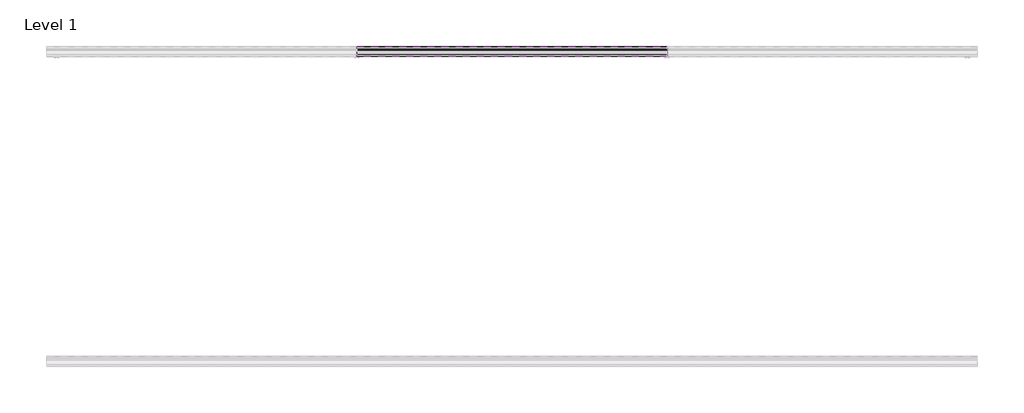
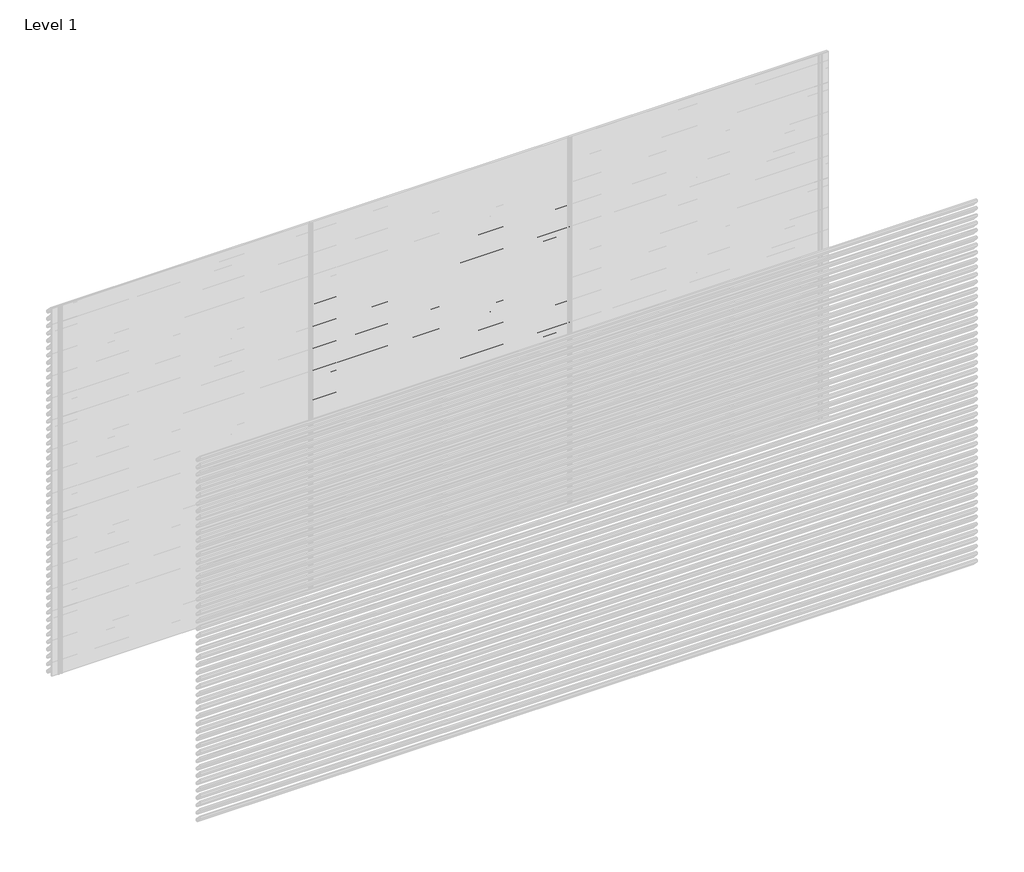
# One storey, part 145 of 153: 33 proxies.
"""IFC4 building model written with IfcOpenShell, lengths in millimetres."""

from ifc_helpers import new_model, si_unit, point, frame, frame_2d, origin, place, context, project, spatial, polyline, circle_curve, trimmed, segment, composite_curve, outline, extrude, element, save

model = new_model("IFC4")

# Units and contexts
model_context = context("Model", 3, world=origin())
ifc_project = project(units=[si_unit("LENGTHUNIT", "METRE", prefix="MILLI")], contexts=[model_context])

# Site, building, storey
site = spatial("IfcSite", under=ifc_project)
building = spatial("IfcBuilding", under=site)
storey = spatial("IfcBuildingStorey", under=building, Name="Level 1", Elevation=0.0)

# Proxies
placement = place(None, origin())
element("IfcBuildingElementProxy", 1, Name="Wall Sweeps", at=placement, inside=storey, context=model_context, shape_type="SweptSolid", body=[
    extrude(outline(composite_curve([segment(polyline([(73985.0540136, 2460.0), (73999.874191, 2458.7034025), (74049.0540136, 2405.0102749), (74049.0540136, 2393.6108187)]), True, "CONTINUOUS"), segment(trimmed(circle_curve(frame_2d((74045.7883652, 2393.897153)), 3.2781774), [point((74049.0540136, 2393.6108187))], [point((74046.4639442, 2390.6893438))], False, "CARTESIAN"), True, "CONTINUOUS"), segment(polyline([(74046.4639442, 2390.6893438), (74034.1895723, 2391.6282758), (73985.0540136, 2445.2730773), (73985.0540136, 2460.0)]), True, "CONTINUOUS")], self_intersect=False), holes=[composite_curve([segment(polyline([(73999.1621773, 2457.2599659), (73986.5540136, 2458.3630372), (73986.5540136, 2445.856213), (74034.8952036, 2393.0786805), (74046.3312542, 2392.2038762)]), True, "CONTINUOUS"), segment(trimmed(circle_curve(frame_2d((74045.7883652, 2393.897153)), 1.7781774), [point((74046.3312542, 2392.2038762))], [point((74047.5540136, 2393.6864389))], True, "CARTESIAN"), True, "CONTINUOUS"), segment(polyline([(74047.5540136, 2393.6864389), (74047.5540136, 2404.4271392), (73999.1621773, 2457.2599659)]), True, "CONTINUOUS")], self_intersect=False)]), frame((46966.6208098, 0.0, 0.0), z_axis=(1.0, 0.0, 0.0), x_axis=(0.0, 1.0, 0.0)), (0.0, 0.0, 1.0), 1999.9999998),
])
element("IfcBuildingElementProxy", 2, Name="Wall Sweeps", at=placement, inside=storey, context=model_context, shape_type="SweptSolid", body=[
    extrude(outline(composite_curve([segment(polyline([(73985.0540136, 2400.0), (73999.874191, 2398.7034025), (74049.0540136, 2345.0102749), (74049.0540136, 2333.6108187)]), True, "CONTINUOUS"), segment(trimmed(circle_curve(frame_2d((74045.7883652, 2333.897153)), 3.2781774), [point((74049.0540136, 2333.6108187))], [point((74046.4639442, 2330.6893438))], False, "CARTESIAN"), True, "CONTINUOUS"), segment(polyline([(74046.4639442, 2330.6893438), (74034.1895723, 2331.6282758), (73985.0540136, 2385.2730773), (73985.0540136, 2400.0)]), True, "CONTINUOUS")], self_intersect=False), holes=[composite_curve([segment(polyline([(73999.1621773, 2397.2599659), (73986.5540136, 2398.3630372), (73986.5540136, 2385.856213), (74034.8952036, 2333.0786805), (74046.3312542, 2332.2038762)]), True, "CONTINUOUS"), segment(trimmed(circle_curve(frame_2d((74045.7883652, 2333.897153)), 1.7781774), [point((74046.3312542, 2332.2038762))], [point((74047.5540136, 2333.6864389))], True, "CARTESIAN"), True, "CONTINUOUS"), segment(polyline([(74047.5540136, 2333.6864389), (74047.5540136, 2344.4271392), (73999.1621773, 2397.2599659)]), True, "CONTINUOUS")], self_intersect=False)]), frame((46966.6208098, 0.0, 0.0), z_axis=(1.0, 0.0, 0.0), x_axis=(0.0, 1.0, 0.0)), (0.0, 0.0, 1.0), 1999.9999998),
])
element("IfcBuildingElementProxy", 3, Name="Wall Sweeps", at=placement, inside=storey, context=model_context, shape_type="SweptSolid", body=[
    extrude(outline(composite_curve([segment(polyline([(73985.0540136, 2340.0), (73999.874191, 2338.7034025), (74049.0540136, 2285.0102749), (74049.0540136, 2273.6108187)]), True, "CONTINUOUS"), segment(trimmed(circle_curve(frame_2d((74045.7883652, 2273.897153)), 3.2781774), [point((74049.0540136, 2273.6108187))], [point((74046.4639442, 2270.6893438))], False, "CARTESIAN"), True, "CONTINUOUS"), segment(polyline([(74046.4639442, 2270.6893438), (74034.1895723, 2271.6282758), (73985.0540136, 2325.2730773), (73985.0540136, 2340.0)]), True, "CONTINUOUS")], self_intersect=False), holes=[composite_curve([segment(polyline([(73999.1621773, 2337.2599659), (73986.5540136, 2338.3630372), (73986.5540136, 2325.856213), (74034.8952036, 2273.0786805), (74046.3312542, 2272.2038762)]), True, "CONTINUOUS"), segment(trimmed(circle_curve(frame_2d((74045.7883652, 2273.897153)), 1.7781774), [point((74046.3312542, 2272.2038762))], [point((74047.5540136, 2273.6864389))], True, "CARTESIAN"), True, "CONTINUOUS"), segment(polyline([(74047.5540136, 2273.6864389), (74047.5540136, 2284.4271392), (73999.1621773, 2337.2599659)]), True, "CONTINUOUS")], self_intersect=False)]), frame((46966.6208098, 0.0, 0.0), z_axis=(1.0, 0.0, 0.0), x_axis=(0.0, 1.0, 0.0)), (0.0, 0.0, 1.0), 1999.9999998),
])
element("IfcBuildingElementProxy", 4, Name="Wall Sweeps", at=placement, inside=storey, context=model_context, shape_type="SweptSolid", body=[
    extrude(outline(composite_curve([segment(polyline([(73985.0540136, 2280.0), (73999.874191, 2278.7034025), (74049.0540136, 2225.0102749), (74049.0540136, 2213.6108187)]), True, "CONTINUOUS"), segment(trimmed(circle_curve(frame_2d((74045.7883652, 2213.897153)), 3.2781774), [point((74049.0540136, 2213.6108187))], [point((74046.4639442, 2210.6893438))], False, "CARTESIAN"), True, "CONTINUOUS"), segment(polyline([(74046.4639442, 2210.6893438), (74034.1895723, 2211.6282758), (73985.0540136, 2265.2730773), (73985.0540136, 2280.0)]), True, "CONTINUOUS")], self_intersect=False), holes=[composite_curve([segment(polyline([(73999.1621773, 2277.2599659), (73986.5540136, 2278.3630372), (73986.5540136, 2265.856213), (74034.8952036, 2213.0786805), (74046.3312542, 2212.2038762)]), True, "CONTINUOUS"), segment(trimmed(circle_curve(frame_2d((74045.7883652, 2213.897153)), 1.7781774), [point((74046.3312542, 2212.2038762))], [point((74047.5540136, 2213.6864389))], True, "CARTESIAN"), True, "CONTINUOUS"), segment(polyline([(74047.5540136, 2213.6864389), (74047.5540136, 2224.4271392), (73999.1621773, 2277.2599659)]), True, "CONTINUOUS")], self_intersect=False)]), frame((46966.6208098, 0.0, 0.0), z_axis=(1.0, 0.0, 0.0), x_axis=(0.0, 1.0, 0.0)), (0.0, 0.0, 1.0), 1999.9999998),
])
element("IfcBuildingElementProxy", 5, Name="Wall Sweeps", at=placement, inside=storey, context=model_context, shape_type="SweptSolid", body=[
    extrude(outline(composite_curve([segment(polyline([(73985.0540136, 2220.0), (73999.874191, 2218.7034025), (74049.0540136, 2165.0102749), (74049.0540136, 2153.6108187)]), True, "CONTINUOUS"), segment(trimmed(circle_curve(frame_2d((74045.7883652, 2153.897153)), 3.2781774), [point((74049.0540136, 2153.6108187))], [point((74046.4639442, 2150.6893438))], False, "CARTESIAN"), True, "CONTINUOUS"), segment(polyline([(74046.4639442, 2150.6893438), (74034.1895723, 2151.6282758), (73985.0540136, 2205.2730773), (73985.0540136, 2220.0)]), True, "CONTINUOUS")], self_intersect=False), holes=[composite_curve([segment(polyline([(73999.1621773, 2217.2599659), (73986.5540136, 2218.3630372), (73986.5540136, 2205.856213), (74034.8952036, 2153.0786805), (74046.3312542, 2152.2038762)]), True, "CONTINUOUS"), segment(trimmed(circle_curve(frame_2d((74045.7883652, 2153.897153)), 1.7781774), [point((74046.3312542, 2152.2038762))], [point((74047.5540136, 2153.6864389))], True, "CARTESIAN"), True, "CONTINUOUS"), segment(polyline([(74047.5540136, 2153.6864389), (74047.5540136, 2164.4271392), (73999.1621773, 2217.2599659)]), True, "CONTINUOUS")], self_intersect=False)]), frame((46966.6208098, 0.0, 0.0), z_axis=(1.0, 0.0, 0.0), x_axis=(0.0, 1.0, 0.0)), (0.0, 0.0, 1.0), 1999.9999998),
])
element("IfcBuildingElementProxy", 6, Name="Wall Sweeps", at=placement, inside=storey, context=model_context, shape_type="SweptSolid", body=[
    extrude(outline(composite_curve([segment(polyline([(73985.0540136, 2160.0), (73999.874191, 2158.7034025), (74049.0540136, 2105.0102749), (74049.0540136, 2093.6108187)]), True, "CONTINUOUS"), segment(trimmed(circle_curve(frame_2d((74045.7883652, 2093.897153)), 3.2781774), [point((74049.0540136, 2093.6108187))], [point((74046.4639442, 2090.6893438))], False, "CARTESIAN"), True, "CONTINUOUS"), segment(polyline([(74046.4639442, 2090.6893438), (74034.1895723, 2091.6282758), (73985.0540136, 2145.2730773), (73985.0540136, 2160.0)]), True, "CONTINUOUS")], self_intersect=False), holes=[composite_curve([segment(polyline([(73999.1621773, 2157.2599659), (73986.5540136, 2158.3630372), (73986.5540136, 2145.856213), (74034.8952036, 2093.0786805), (74046.3312542, 2092.2038762)]), True, "CONTINUOUS"), segment(trimmed(circle_curve(frame_2d((74045.7883652, 2093.897153)), 1.7781774), [point((74046.3312542, 2092.2038762))], [point((74047.5540136, 2093.6864389))], True, "CARTESIAN"), True, "CONTINUOUS"), segment(polyline([(74047.5540136, 2093.6864389), (74047.5540136, 2104.4271392), (73999.1621773, 2157.2599659)]), True, "CONTINUOUS")], self_intersect=False)]), frame((46966.6208098, 0.0, 0.0), z_axis=(1.0, 0.0, 0.0), x_axis=(0.0, 1.0, 0.0)), (0.0, 0.0, 1.0), 1999.9999998),
])
element("IfcBuildingElementProxy", 7, Name="Wall Sweeps", at=placement, inside=storey, context=model_context, shape_type="SweptSolid", body=[
    extrude(outline(composite_curve([segment(polyline([(73985.0540136, 2100.0), (73999.874191, 2098.7034025), (74049.0540136, 2045.0102749), (74049.0540136, 2033.6108187)]), True, "CONTINUOUS"), segment(trimmed(circle_curve(frame_2d((74045.7883652, 2033.897153)), 3.2781774), [point((74049.0540136, 2033.6108187))], [point((74046.4639442, 2030.6893438))], False, "CARTESIAN"), True, "CONTINUOUS"), segment(polyline([(74046.4639442, 2030.6893438), (74034.1895723, 2031.6282758), (73985.0540136, 2085.2730773), (73985.0540136, 2100.0)]), True, "CONTINUOUS")], self_intersect=False), holes=[composite_curve([segment(polyline([(73999.1621773, 2097.2599659), (73986.5540136, 2098.3630372), (73986.5540136, 2085.856213), (74034.8952036, 2033.0786805), (74046.3312542, 2032.2038762)]), True, "CONTINUOUS"), segment(trimmed(circle_curve(frame_2d((74045.7883652, 2033.897153)), 1.7781774), [point((74046.3312542, 2032.2038762))], [point((74047.5540136, 2033.6864389))], True, "CARTESIAN"), True, "CONTINUOUS"), segment(polyline([(74047.5540136, 2033.6864389), (74047.5540136, 2044.4271392), (73999.1621773, 2097.2599659)]), True, "CONTINUOUS")], self_intersect=False)]), frame((46966.6208098, 0.0, 0.0), z_axis=(1.0, 0.0, 0.0), x_axis=(0.0, 1.0, 0.0)), (0.0, 0.0, 1.0), 1999.9999998),
])
element("IfcBuildingElementProxy", 8, Name="Wall Sweeps", at=placement, inside=storey, context=model_context, shape_type="SweptSolid", body=[
    extrude(outline(composite_curve([segment(polyline([(73985.0540136, 2040.0), (73999.874191, 2038.7034025), (74049.0540136, 1985.0102749), (74049.0540136, 1973.6108187)]), True, "CONTINUOUS"), segment(trimmed(circle_curve(frame_2d((74045.7883652, 1973.897153)), 3.2781774), [point((74049.0540136, 1973.6108187))], [point((74046.4639442, 1970.6893438))], False, "CARTESIAN"), True, "CONTINUOUS"), segment(polyline([(74046.4639442, 1970.6893438), (74034.1895723, 1971.6282758), (73985.0540136, 2025.2730773), (73985.0540136, 2040.0)]), True, "CONTINUOUS")], self_intersect=False), holes=[composite_curve([segment(polyline([(73999.1621773, 2037.2599659), (73986.5540136, 2038.3630372), (73986.5540136, 2025.856213), (74034.8952036, 1973.0786805), (74046.3312542, 1972.2038762)]), True, "CONTINUOUS"), segment(trimmed(circle_curve(frame_2d((74045.7883652, 1973.897153)), 1.7781774), [point((74046.3312542, 1972.2038762))], [point((74047.5540136, 1973.6864389))], True, "CARTESIAN"), True, "CONTINUOUS"), segment(polyline([(74047.5540136, 1973.6864389), (74047.5540136, 1984.4271392), (73999.1621773, 2037.2599659)]), True, "CONTINUOUS")], self_intersect=False)]), frame((46966.6208098, 0.0, 0.0), z_axis=(1.0, 0.0, 0.0), x_axis=(0.0, 1.0, 0.0)), (0.0, 0.0, 1.0), 1999.9999998),
])
element("IfcBuildingElementProxy", 9, Name="Wall Sweeps", at=placement, inside=storey, context=model_context, shape_type="SweptSolid", body=[
    extrude(outline(composite_curve([segment(polyline([(73985.0540136, 1980.0), (73999.874191, 1978.7034025), (74049.0540136, 1925.0102749), (74049.0540136, 1913.6108187)]), True, "CONTINUOUS"), segment(trimmed(circle_curve(frame_2d((74045.7883652, 1913.897153)), 3.2781774), [point((74049.0540136, 1913.6108187))], [point((74046.4639442, 1910.6893438))], False, "CARTESIAN"), True, "CONTINUOUS"), segment(polyline([(74046.4639442, 1910.6893438), (74034.1895723, 1911.6282758), (73985.0540136, 1965.2730773), (73985.0540136, 1980.0)]), True, "CONTINUOUS")], self_intersect=False), holes=[composite_curve([segment(polyline([(73999.1621773, 1977.2599659), (73986.5540136, 1978.3630372), (73986.5540136, 1965.856213), (74034.8952036, 1913.0786805), (74046.3312542, 1912.2038762)]), True, "CONTINUOUS"), segment(trimmed(circle_curve(frame_2d((74045.7883652, 1913.897153)), 1.7781774), [point((74046.3312542, 1912.2038762))], [point((74047.5540136, 1913.6864389))], True, "CARTESIAN"), True, "CONTINUOUS"), segment(polyline([(74047.5540136, 1913.6864389), (74047.5540136, 1924.4271392), (73999.1621773, 1977.2599659)]), True, "CONTINUOUS")], self_intersect=False)]), frame((46966.6208098, 0.0, 0.0), z_axis=(1.0, 0.0, 0.0), x_axis=(0.0, 1.0, 0.0)), (0.0, 0.0, 1.0), 1999.9999998),
])
element("IfcBuildingElementProxy", 10, Name="Wall Sweeps", at=placement, inside=storey, context=model_context, shape_type="SweptSolid", body=[
    extrude(outline(composite_curve([segment(polyline([(73985.0540136, 1920.0), (73999.874191, 1918.7034025), (74049.0540136, 1865.0102749), (74049.0540136, 1853.6108187)]), True, "CONTINUOUS"), segment(trimmed(circle_curve(frame_2d((74045.7883652, 1853.897153)), 3.2781774), [point((74049.0540136, 1853.6108187))], [point((74046.4639442, 1850.6893438))], False, "CARTESIAN"), True, "CONTINUOUS"), segment(polyline([(74046.4639442, 1850.6893438), (74034.1895723, 1851.6282758), (73985.0540136, 1905.2730773), (73985.0540136, 1920.0)]), True, "CONTINUOUS")], self_intersect=False), holes=[composite_curve([segment(polyline([(73999.1621773, 1917.2599659), (73986.5540136, 1918.3630372), (73986.5540136, 1905.856213), (74034.8952036, 1853.0786805), (74046.3312542, 1852.2038762)]), True, "CONTINUOUS"), segment(trimmed(circle_curve(frame_2d((74045.7883652, 1853.897153)), 1.7781774), [point((74046.3312542, 1852.2038762))], [point((74047.5540136, 1853.6864389))], True, "CARTESIAN"), True, "CONTINUOUS"), segment(polyline([(74047.5540136, 1853.6864389), (74047.5540136, 1864.4271392), (73999.1621773, 1917.2599659)]), True, "CONTINUOUS")], self_intersect=False)]), frame((46966.6208098, 0.0, 0.0), z_axis=(1.0, 0.0, 0.0), x_axis=(0.0, 1.0, 0.0)), (0.0, 0.0, 1.0), 1999.9999998),
])
element("IfcBuildingElementProxy", 11, Name="Wall Sweeps", at=placement, inside=storey, context=model_context, shape_type="SweptSolid", body=[
    extrude(outline(composite_curve([segment(polyline([(73985.0540136, 1860.0), (73999.874191, 1858.7034025), (74049.0540136, 1805.0102749), (74049.0540136, 1793.6108187)]), True, "CONTINUOUS"), segment(trimmed(circle_curve(frame_2d((74045.7883652, 1793.897153)), 3.2781774), [point((74049.0540136, 1793.6108187))], [point((74046.4639442, 1790.6893438))], False, "CARTESIAN"), True, "CONTINUOUS"), segment(polyline([(74046.4639442, 1790.6893438), (74034.1895723, 1791.6282758), (73985.0540136, 1845.2730773), (73985.0540136, 1860.0)]), True, "CONTINUOUS")], self_intersect=False), holes=[composite_curve([segment(polyline([(73999.1621773, 1857.2599659), (73986.5540136, 1858.3630372), (73986.5540136, 1845.856213), (74034.8952036, 1793.0786805), (74046.3312542, 1792.2038762)]), True, "CONTINUOUS"), segment(trimmed(circle_curve(frame_2d((74045.7883652, 1793.897153)), 1.7781774), [point((74046.3312542, 1792.2038762))], [point((74047.5540136, 1793.6864389))], True, "CARTESIAN"), True, "CONTINUOUS"), segment(polyline([(74047.5540136, 1793.6864389), (74047.5540136, 1804.4271392), (73999.1621773, 1857.2599659)]), True, "CONTINUOUS")], self_intersect=False)]), frame((46966.6208098, 0.0, 0.0), z_axis=(1.0, 0.0, 0.0), x_axis=(0.0, 1.0, 0.0)), (0.0, 0.0, 1.0), 1999.9999998),
])
element("IfcBuildingElementProxy", 12, Name="Wall Sweeps", at=placement, inside=storey, context=model_context, shape_type="SweptSolid", body=[
    extrude(outline(composite_curve([segment(polyline([(73985.0540136, 1800.0), (73999.874191, 1798.7034025), (74049.0540136, 1745.0102749), (74049.0540136, 1733.6108187)]), True, "CONTINUOUS"), segment(trimmed(circle_curve(frame_2d((74045.7883652, 1733.897153)), 3.2781774), [point((74049.0540136, 1733.6108187))], [point((74046.4639442, 1730.6893438))], False, "CARTESIAN"), True, "CONTINUOUS"), segment(polyline([(74046.4639442, 1730.6893438), (74034.1895723, 1731.6282758), (73985.0540136, 1785.2730773), (73985.0540136, 1800.0)]), True, "CONTINUOUS")], self_intersect=False), holes=[composite_curve([segment(polyline([(73999.1621773, 1797.2599659), (73986.5540136, 1798.3630372), (73986.5540136, 1785.856213), (74034.8952036, 1733.0786805), (74046.3312542, 1732.2038762)]), True, "CONTINUOUS"), segment(trimmed(circle_curve(frame_2d((74045.7883652, 1733.897153)), 1.7781774), [point((74046.3312542, 1732.2038762))], [point((74047.5540136, 1733.6864389))], True, "CARTESIAN"), True, "CONTINUOUS"), segment(polyline([(74047.5540136, 1733.6864389), (74047.5540136, 1744.4271392), (73999.1621773, 1797.2599659)]), True, "CONTINUOUS")], self_intersect=False)]), frame((46966.6208098, 0.0, 0.0), z_axis=(1.0, 0.0, 0.0), x_axis=(0.0, 1.0, 0.0)), (0.0, 0.0, 1.0), 1999.9999998),
])
element("IfcBuildingElementProxy", 13, Name="Wall Sweeps", at=placement, inside=storey, context=model_context, shape_type="SweptSolid", body=[
    extrude(outline(composite_curve([segment(polyline([(73985.0540136, 1740.0), (73999.874191, 1738.7034025), (74049.0540136, 1685.0102749), (74049.0540136, 1673.6108187)]), True, "CONTINUOUS"), segment(trimmed(circle_curve(frame_2d((74045.7883652, 1673.897153)), 3.2781774), [point((74049.0540136, 1673.6108187))], [point((74046.4639442, 1670.6893438))], False, "CARTESIAN"), True, "CONTINUOUS"), segment(polyline([(74046.4639442, 1670.6893438), (74034.1895723, 1671.6282758), (73985.0540136, 1725.2730773), (73985.0540136, 1740.0)]), True, "CONTINUOUS")], self_intersect=False), holes=[composite_curve([segment(polyline([(73999.1621773, 1737.2599659), (73986.5540136, 1738.3630372), (73986.5540136, 1725.856213), (74034.8952036, 1673.0786805), (74046.3312542, 1672.2038762)]), True, "CONTINUOUS"), segment(trimmed(circle_curve(frame_2d((74045.7883652, 1673.897153)), 1.7781774), [point((74046.3312542, 1672.2038762))], [point((74047.5540136, 1673.6864389))], True, "CARTESIAN"), True, "CONTINUOUS"), segment(polyline([(74047.5540136, 1673.6864389), (74047.5540136, 1684.4271392), (73999.1621773, 1737.2599659)]), True, "CONTINUOUS")], self_intersect=False)]), frame((46966.6208098, 0.0, 0.0), z_axis=(1.0, 0.0, 0.0), x_axis=(0.0, 1.0, 0.0)), (0.0, 0.0, 1.0), 1999.9999998),
])
element("IfcBuildingElementProxy", 14, Name="Wall Sweeps", at=placement, inside=storey, context=model_context, shape_type="SweptSolid", body=[
    extrude(outline(composite_curve([segment(polyline([(73985.0540136, 1680.0), (73999.874191, 1678.7034025), (74049.0540136, 1625.0102749), (74049.0540136, 1613.6108187)]), True, "CONTINUOUS"), segment(trimmed(circle_curve(frame_2d((74045.7883652, 1613.897153)), 3.2781774), [point((74049.0540136, 1613.6108187))], [point((74046.4639442, 1610.6893438))], False, "CARTESIAN"), True, "CONTINUOUS"), segment(polyline([(74046.4639442, 1610.6893438), (74034.1895723, 1611.6282758), (73985.0540136, 1665.2730773), (73985.0540136, 1680.0)]), True, "CONTINUOUS")], self_intersect=False), holes=[composite_curve([segment(polyline([(73999.1621773, 1677.2599659), (73986.5540136, 1678.3630372), (73986.5540136, 1665.856213), (74034.8952036, 1613.0786805), (74046.3312542, 1612.2038762)]), True, "CONTINUOUS"), segment(trimmed(circle_curve(frame_2d((74045.7883652, 1613.897153)), 1.7781774), [point((74046.3312542, 1612.2038762))], [point((74047.5540136, 1613.6864389))], True, "CARTESIAN"), True, "CONTINUOUS"), segment(polyline([(74047.5540136, 1613.6864389), (74047.5540136, 1624.4271392), (73999.1621773, 1677.2599659)]), True, "CONTINUOUS")], self_intersect=False)]), frame((46966.6208098, 0.0, 0.0), z_axis=(1.0, 0.0, 0.0), x_axis=(0.0, 1.0, 0.0)), (0.0, 0.0, 1.0), 1999.9999998),
])
element("IfcBuildingElementProxy", 15, Name="Wall Sweeps", at=placement, inside=storey, context=model_context, shape_type="SweptSolid", body=[
    extrude(outline(composite_curve([segment(polyline([(73985.0540136, 1620.0), (73999.874191, 1618.7034025), (74049.0540136, 1565.0102749), (74049.0540136, 1553.6108187)]), True, "CONTINUOUS"), segment(trimmed(circle_curve(frame_2d((74045.7883652, 1553.897153)), 3.2781774), [point((74049.0540136, 1553.6108187))], [point((74046.4639442, 1550.6893438))], False, "CARTESIAN"), True, "CONTINUOUS"), segment(polyline([(74046.4639442, 1550.6893438), (74034.1895723, 1551.6282758), (73985.0540136, 1605.2730773), (73985.0540136, 1620.0)]), True, "CONTINUOUS")], self_intersect=False), holes=[composite_curve([segment(polyline([(73999.1621773, 1617.2599659), (73986.5540136, 1618.3630372), (73986.5540136, 1605.856213), (74034.8952036, 1553.0786805), (74046.3312542, 1552.2038762)]), True, "CONTINUOUS"), segment(trimmed(circle_curve(frame_2d((74045.7883652, 1553.897153)), 1.7781774), [point((74046.3312542, 1552.2038762))], [point((74047.5540136, 1553.6864389))], True, "CARTESIAN"), True, "CONTINUOUS"), segment(polyline([(74047.5540136, 1553.6864389), (74047.5540136, 1564.4271392), (73999.1621773, 1617.2599659)]), True, "CONTINUOUS")], self_intersect=False)]), frame((46966.6208098, 0.0, 0.0), z_axis=(1.0, 0.0, 0.0), x_axis=(0.0, 1.0, 0.0)), (0.0, 0.0, 1.0), 1999.9999998),
])
element("IfcBuildingElementProxy", 16, Name="Wall Sweeps", at=placement, inside=storey, context=model_context, shape_type="SweptSolid", body=[
    extrude(outline(composite_curve([segment(polyline([(73985.0540136, 1560.0), (73999.874191, 1558.7034025), (74049.0540136, 1505.0102749), (74049.0540136, 1493.6108187)]), True, "CONTINUOUS"), segment(trimmed(circle_curve(frame_2d((74045.7883652, 1493.897153)), 3.2781774), [point((74049.0540136, 1493.6108187))], [point((74046.4639442, 1490.6893438))], False, "CARTESIAN"), True, "CONTINUOUS"), segment(polyline([(74046.4639442, 1490.6893438), (74034.1895723, 1491.6282758), (73985.0540136, 1545.2730773), (73985.0540136, 1560.0)]), True, "CONTINUOUS")], self_intersect=False), holes=[composite_curve([segment(polyline([(73999.1621773, 1557.2599659), (73986.5540136, 1558.3630372), (73986.5540136, 1545.856213), (74034.8952036, 1493.0786805), (74046.3312542, 1492.2038762)]), True, "CONTINUOUS"), segment(trimmed(circle_curve(frame_2d((74045.7883652, 1493.897153)), 1.7781774), [point((74046.3312542, 1492.2038762))], [point((74047.5540136, 1493.6864389))], True, "CARTESIAN"), True, "CONTINUOUS"), segment(polyline([(74047.5540136, 1493.6864389), (74047.5540136, 1504.4271392), (73999.1621773, 1557.2599659)]), True, "CONTINUOUS")], self_intersect=False)]), frame((46966.6208098, 0.0, 0.0), z_axis=(1.0, 0.0, 0.0), x_axis=(0.0, 1.0, 0.0)), (0.0, 0.0, 1.0), 1999.9999998),
])
element("IfcBuildingElementProxy", 17, Name="Wall Sweeps", at=placement, inside=storey, context=model_context, shape_type="SweptSolid", body=[
    extrude(outline(composite_curve([segment(polyline([(73985.0540136, 1500.0), (73999.874191, 1498.7034025), (74049.0540136, 1445.0102749), (74049.0540136, 1433.6108187)]), True, "CONTINUOUS"), segment(trimmed(circle_curve(frame_2d((74045.7883652, 1433.897153)), 3.2781774), [point((74049.0540136, 1433.6108187))], [point((74046.4639442, 1430.6893438))], False, "CARTESIAN"), True, "CONTINUOUS"), segment(polyline([(74046.4639442, 1430.6893438), (74034.1895723, 1431.6282758), (73985.0540136, 1485.2730773), (73985.0540136, 1500.0)]), True, "CONTINUOUS")], self_intersect=False), holes=[composite_curve([segment(polyline([(73999.1621773, 1497.2599659), (73986.5540136, 1498.3630372), (73986.5540136, 1485.856213), (74034.8952036, 1433.0786805), (74046.3312542, 1432.2038762)]), True, "CONTINUOUS"), segment(trimmed(circle_curve(frame_2d((74045.7883652, 1433.897153)), 1.7781774), [point((74046.3312542, 1432.2038762))], [point((74047.5540136, 1433.6864389))], True, "CARTESIAN"), True, "CONTINUOUS"), segment(polyline([(74047.5540136, 1433.6864389), (74047.5540136, 1444.4271392), (73999.1621773, 1497.2599659)]), True, "CONTINUOUS")], self_intersect=False)]), frame((46966.6208098, 0.0, 0.0), z_axis=(1.0, 0.0, 0.0), x_axis=(0.0, 1.0, 0.0)), (0.0, 0.0, 1.0), 1999.9999998),
])
element("IfcBuildingElementProxy", 18, Name="Wall Sweeps", at=placement, inside=storey, context=model_context, shape_type="SweptSolid", body=[
    extrude(outline(composite_curve([segment(polyline([(73985.0540136, 1440.0), (73999.874191, 1438.7034025), (74049.0540136, 1385.0102749), (74049.0540136, 1373.6108187)]), True, "CONTINUOUS"), segment(trimmed(circle_curve(frame_2d((74045.7883652, 1373.897153)), 3.2781774), [point((74049.0540136, 1373.6108187))], [point((74046.4639442, 1370.6893438))], False, "CARTESIAN"), True, "CONTINUOUS"), segment(polyline([(74046.4639442, 1370.6893438), (74034.1895723, 1371.6282758), (73985.0540136, 1425.2730773), (73985.0540136, 1440.0)]), True, "CONTINUOUS")], self_intersect=False), holes=[composite_curve([segment(polyline([(73999.1621773, 1437.2599659), (73986.5540136, 1438.3630372), (73986.5540136, 1425.856213), (74034.8952036, 1373.0786805), (74046.3312542, 1372.2038762)]), True, "CONTINUOUS"), segment(trimmed(circle_curve(frame_2d((74045.7883652, 1373.897153)), 1.7781774), [point((74046.3312542, 1372.2038762))], [point((74047.5540136, 1373.6864389))], True, "CARTESIAN"), True, "CONTINUOUS"), segment(polyline([(74047.5540136, 1373.6864389), (74047.5540136, 1384.4271392), (73999.1621773, 1437.2599659)]), True, "CONTINUOUS")], self_intersect=False)]), frame((46966.6208098, 0.0, 0.0), z_axis=(1.0, 0.0, 0.0), x_axis=(0.0, 1.0, 0.0)), (0.0, 0.0, 1.0), 1999.9999998),
])
element("IfcBuildingElementProxy", 19, Name="Wall Sweeps", at=placement, inside=storey, context=model_context, shape_type="SweptSolid", body=[
    extrude(outline(composite_curve([segment(polyline([(73985.0540136, 1380.0), (73999.874191, 1378.7034025), (74049.0540136, 1325.0102749), (74049.0540136, 1313.6108187)]), True, "CONTINUOUS"), segment(trimmed(circle_curve(frame_2d((74045.7883652, 1313.897153)), 3.2781774), [point((74049.0540136, 1313.6108187))], [point((74046.4639442, 1310.6893438))], False, "CARTESIAN"), True, "CONTINUOUS"), segment(polyline([(74046.4639442, 1310.6893438), (74034.1895723, 1311.6282758), (73985.0540136, 1365.2730773), (73985.0540136, 1380.0)]), True, "CONTINUOUS")], self_intersect=False), holes=[composite_curve([segment(polyline([(73999.1621773, 1377.2599659), (73986.5540136, 1378.3630372), (73986.5540136, 1365.856213), (74034.8952036, 1313.0786805), (74046.3312542, 1312.2038762)]), True, "CONTINUOUS"), segment(trimmed(circle_curve(frame_2d((74045.7883652, 1313.897153)), 1.7781774), [point((74046.3312542, 1312.2038762))], [point((74047.5540136, 1313.6864389))], True, "CARTESIAN"), True, "CONTINUOUS"), segment(polyline([(74047.5540136, 1313.6864389), (74047.5540136, 1324.4271392), (73999.1621773, 1377.2599659)]), True, "CONTINUOUS")], self_intersect=False)]), frame((46966.6208098, 0.0, 0.0), z_axis=(1.0, 0.0, 0.0), x_axis=(0.0, 1.0, 0.0)), (0.0, 0.0, 1.0), 1999.9999998),
])
element("IfcBuildingElementProxy", 20, Name="Wall Sweeps", at=placement, inside=storey, context=model_context, shape_type="SweptSolid", body=[
    extrude(outline(composite_curve([segment(polyline([(73985.0540136, 1320.0), (73999.874191, 1318.7034025), (74049.0540136, 1265.0102749), (74049.0540136, 1253.6108187)]), True, "CONTINUOUS"), segment(trimmed(circle_curve(frame_2d((74045.7883652, 1253.897153)), 3.2781774), [point((74049.0540136, 1253.6108187))], [point((74046.4639442, 1250.6893438))], False, "CARTESIAN"), True, "CONTINUOUS"), segment(polyline([(74046.4639442, 1250.6893438), (74034.1895723, 1251.6282758), (73985.0540136, 1305.2730773), (73985.0540136, 1320.0)]), True, "CONTINUOUS")], self_intersect=False), holes=[composite_curve([segment(polyline([(73999.1621773, 1317.2599659), (73986.5540136, 1318.3630372), (73986.5540136, 1305.856213), (74034.8952036, 1253.0786805), (74046.3312542, 1252.2038762)]), True, "CONTINUOUS"), segment(trimmed(circle_curve(frame_2d((74045.7883652, 1253.897153)), 1.7781774), [point((74046.3312542, 1252.2038762))], [point((74047.5540136, 1253.6864389))], True, "CARTESIAN"), True, "CONTINUOUS"), segment(polyline([(74047.5540136, 1253.6864389), (74047.5540136, 1264.4271392), (73999.1621773, 1317.2599659)]), True, "CONTINUOUS")], self_intersect=False)]), frame((46966.6208098, 0.0, 0.0), z_axis=(1.0, 0.0, 0.0), x_axis=(0.0, 1.0, 0.0)), (0.0, 0.0, 1.0), 1999.9999998),
])
element("IfcBuildingElementProxy", 21, Name="Wall Sweeps", at=placement, inside=storey, context=model_context, shape_type="SweptSolid", body=[
    extrude(outline(composite_curve([segment(polyline([(73985.0540136, 1260.0), (73999.874191, 1258.7034025), (74049.0540136, 1205.0102749), (74049.0540136, 1193.6108187)]), True, "CONTINUOUS"), segment(trimmed(circle_curve(frame_2d((74045.7883652, 1193.897153)), 3.2781774), [point((74049.0540136, 1193.6108187))], [point((74046.4639442, 1190.6893438))], False, "CARTESIAN"), True, "CONTINUOUS"), segment(polyline([(74046.4639442, 1190.6893438), (74034.1895723, 1191.6282758), (73985.0540136, 1245.2730773), (73985.0540136, 1260.0)]), True, "CONTINUOUS")], self_intersect=False), holes=[composite_curve([segment(polyline([(73999.1621773, 1257.2599659), (73986.5540136, 1258.3630372), (73986.5540136, 1245.856213), (74034.8952036, 1193.0786805), (74046.3312542, 1192.2038762)]), True, "CONTINUOUS"), segment(trimmed(circle_curve(frame_2d((74045.7883652, 1193.897153)), 1.7781774), [point((74046.3312542, 1192.2038762))], [point((74047.5540136, 1193.6864389))], True, "CARTESIAN"), True, "CONTINUOUS"), segment(polyline([(74047.5540136, 1193.6864389), (74047.5540136, 1204.4271392), (73999.1621773, 1257.2599659)]), True, "CONTINUOUS")], self_intersect=False)]), frame((46966.6208098, 0.0, 0.0), z_axis=(1.0, 0.0, 0.0), x_axis=(0.0, 1.0, 0.0)), (0.0, 0.0, 1.0), 1999.9999998),
])
element("IfcBuildingElementProxy", 22, Name="Wall Sweeps", at=placement, inside=storey, context=model_context, shape_type="SweptSolid", body=[
    extrude(outline(composite_curve([segment(polyline([(73985.0540136, 1200.0), (73999.874191, 1198.7034025), (74049.0540136, 1145.0102749), (74049.0540136, 1133.6108187)]), True, "CONTINUOUS"), segment(trimmed(circle_curve(frame_2d((74045.7883652, 1133.897153)), 3.2781774), [point((74049.0540136, 1133.6108187))], [point((74046.4639442, 1130.6893438))], False, "CARTESIAN"), True, "CONTINUOUS"), segment(polyline([(74046.4639442, 1130.6893438), (74034.1895723, 1131.6282758), (73985.0540136, 1185.2730773), (73985.0540136, 1200.0)]), True, "CONTINUOUS")], self_intersect=False), holes=[composite_curve([segment(polyline([(73999.1621773, 1197.2599659), (73986.5540136, 1198.3630372), (73986.5540136, 1185.856213), (74034.8952036, 1133.0786805), (74046.3312542, 1132.2038762)]), True, "CONTINUOUS"), segment(trimmed(circle_curve(frame_2d((74045.7883652, 1133.897153)), 1.7781774), [point((74046.3312542, 1132.2038762))], [point((74047.5540136, 1133.6864389))], True, "CARTESIAN"), True, "CONTINUOUS"), segment(polyline([(74047.5540136, 1133.6864389), (74047.5540136, 1144.4271392), (73999.1621773, 1197.2599659)]), True, "CONTINUOUS")], self_intersect=False)]), frame((46966.6208098, 0.0, 0.0), z_axis=(1.0, 0.0, 0.0), x_axis=(0.0, 1.0, 0.0)), (0.0, 0.0, 1.0), 1999.9999998),
])
element("IfcBuildingElementProxy", 23, Name="Wall Sweeps", at=placement, inside=storey, context=model_context, shape_type="SweptSolid", body=[
    extrude(outline(composite_curve([segment(polyline([(73985.0540136, 1140.0), (73999.874191, 1138.7034025), (74049.0540136, 1085.0102749), (74049.0540136, 1073.6108187)]), True, "CONTINUOUS"), segment(trimmed(circle_curve(frame_2d((74045.7883652, 1073.897153)), 3.2781774), [point((74049.0540136, 1073.6108187))], [point((74046.4639442, 1070.6893438))], False, "CARTESIAN"), True, "CONTINUOUS"), segment(polyline([(74046.4639442, 1070.6893438), (74034.1895723, 1071.6282758), (73985.0540136, 1125.2730773), (73985.0540136, 1140.0)]), True, "CONTINUOUS")], self_intersect=False), holes=[composite_curve([segment(polyline([(73999.1621773, 1137.2599659), (73986.5540136, 1138.3630372), (73986.5540136, 1125.856213), (74034.8952036, 1073.0786805), (74046.3312542, 1072.2038762)]), True, "CONTINUOUS"), segment(trimmed(circle_curve(frame_2d((74045.7883652, 1073.897153)), 1.7781774), [point((74046.3312542, 1072.2038762))], [point((74047.5540136, 1073.6864389))], True, "CARTESIAN"), True, "CONTINUOUS"), segment(polyline([(74047.5540136, 1073.6864389), (74047.5540136, 1084.4271392), (73999.1621773, 1137.2599659)]), True, "CONTINUOUS")], self_intersect=False)]), frame((46966.6208098, 0.0, 0.0), z_axis=(1.0, 0.0, 0.0), x_axis=(0.0, 1.0, 0.0)), (0.0, 0.0, 1.0), 1999.9999998),
])
element("IfcBuildingElementProxy", 24, Name="Wall Sweeps", at=placement, inside=storey, context=model_context, shape_type="SweptSolid", body=[
    extrude(outline(composite_curve([segment(polyline([(73985.0540136, 1080.0), (73999.874191, 1078.7034025), (74049.0540136, 1025.0102749), (74049.0540136, 1013.6108187)]), True, "CONTINUOUS"), segment(trimmed(circle_curve(frame_2d((74045.7883652, 1013.897153)), 3.2781774), [point((74049.0540136, 1013.6108187))], [point((74046.4639442, 1010.6893438))], False, "CARTESIAN"), True, "CONTINUOUS"), segment(polyline([(74046.4639442, 1010.6893438), (74034.1895723, 1011.6282758), (73985.0540136, 1065.2730773), (73985.0540136, 1080.0)]), True, "CONTINUOUS")], self_intersect=False), holes=[composite_curve([segment(polyline([(73999.1621773, 1077.2599659), (73986.5540136, 1078.3630372), (73986.5540136, 1065.856213), (74034.8952036, 1013.0786805), (74046.3312542, 1012.2038762)]), True, "CONTINUOUS"), segment(trimmed(circle_curve(frame_2d((74045.7883652, 1013.897153)), 1.7781774), [point((74046.3312542, 1012.2038762))], [point((74047.5540136, 1013.6864389))], True, "CARTESIAN"), True, "CONTINUOUS"), segment(polyline([(74047.5540136, 1013.6864389), (74047.5540136, 1024.4271392), (73999.1621773, 1077.2599659)]), True, "CONTINUOUS")], self_intersect=False)]), frame((46966.6208098, 0.0, 0.0), z_axis=(1.0, 0.0, 0.0), x_axis=(0.0, 1.0, 0.0)), (0.0, 0.0, 1.0), 1999.9999998),
])
element("IfcBuildingElementProxy", 25, Name="Wall Sweeps", at=placement, inside=storey, context=model_context, shape_type="SweptSolid", body=[
    extrude(outline(composite_curve([segment(polyline([(73985.0540136, 1020.0), (73999.874191, 1018.7034025), (74049.0540136, 965.0102749), (74049.0540136, 953.6108187)]), True, "CONTINUOUS"), segment(trimmed(circle_curve(frame_2d((74045.7883652, 953.897153)), 3.2781774), [point((74049.0540136, 953.6108187))], [point((74046.4639442, 950.6893438))], False, "CARTESIAN"), True, "CONTINUOUS"), segment(polyline([(74046.4639442, 950.6893438), (74034.1895723, 951.6282758), (73985.0540136, 1005.2730773), (73985.0540136, 1020.0)]), True, "CONTINUOUS")], self_intersect=False), holes=[composite_curve([segment(polyline([(73999.1621773, 1017.2599659), (73986.5540136, 1018.3630372), (73986.5540136, 1005.856213), (74034.8952036, 953.0786805), (74046.3312542, 952.2038762)]), True, "CONTINUOUS"), segment(trimmed(circle_curve(frame_2d((74045.7883652, 953.897153)), 1.7781774), [point((74046.3312542, 952.2038762))], [point((74047.5540136, 953.6864389))], True, "CARTESIAN"), True, "CONTINUOUS"), segment(polyline([(74047.5540136, 953.6864389), (74047.5540136, 964.4271392), (73999.1621773, 1017.2599659)]), True, "CONTINUOUS")], self_intersect=False)]), frame((46966.6208098, 0.0, 0.0), z_axis=(1.0, 0.0, 0.0), x_axis=(0.0, 1.0, 0.0)), (0.0, 0.0, 1.0), 1999.9999998),
])
element("IfcBuildingElementProxy", 26, Name="Wall Sweeps", at=placement, inside=storey, context=model_context, shape_type="SweptSolid", body=[
    extrude(outline(composite_curve([segment(polyline([(73985.0540136, 960.0), (73999.874191, 958.7034025), (74049.0540136, 905.0102749), (74049.0540136, 893.6108187)]), True, "CONTINUOUS"), segment(trimmed(circle_curve(frame_2d((74045.7883652, 893.897153)), 3.2781774), [point((74049.0540136, 893.6108187))], [point((74046.4639442, 890.6893438))], False, "CARTESIAN"), True, "CONTINUOUS"), segment(polyline([(74046.4639442, 890.6893438), (74034.1895723, 891.6282758), (73985.0540136, 945.2730773), (73985.0540136, 960.0)]), True, "CONTINUOUS")], self_intersect=False), holes=[composite_curve([segment(polyline([(73999.1621773, 957.2599659), (73986.5540136, 958.3630372), (73986.5540136, 945.856213), (74034.8952036, 893.0786805), (74046.3312542, 892.2038762)]), True, "CONTINUOUS"), segment(trimmed(circle_curve(frame_2d((74045.7883652, 893.897153)), 1.7781774), [point((74046.3312542, 892.2038762))], [point((74047.5540136, 893.6864389))], True, "CARTESIAN"), True, "CONTINUOUS"), segment(polyline([(74047.5540136, 893.6864389), (74047.5540136, 904.4271392), (73999.1621773, 957.2599659)]), True, "CONTINUOUS")], self_intersect=False)]), frame((46966.6208098, 0.0, 0.0), z_axis=(1.0, 0.0, 0.0), x_axis=(0.0, 1.0, 0.0)), (0.0, 0.0, 1.0), 1999.9999998),
])
element("IfcBuildingElementProxy", 27, Name="Wall Sweeps", at=placement, inside=storey, context=model_context, shape_type="SweptSolid", body=[
    extrude(outline(composite_curve([segment(polyline([(73985.0540136, 900.0), (73999.874191, 898.7034025), (74049.0540136, 845.0102749), (74049.0540136, 833.6108187)]), True, "CONTINUOUS"), segment(trimmed(circle_curve(frame_2d((74045.7883652, 833.897153)), 3.2781774), [point((74049.0540136, 833.6108187))], [point((74046.4639442, 830.6893438))], False, "CARTESIAN"), True, "CONTINUOUS"), segment(polyline([(74046.4639442, 830.6893438), (74034.1895723, 831.6282758), (73985.0540136, 885.2730773), (73985.0540136, 900.0)]), True, "CONTINUOUS")], self_intersect=False), holes=[composite_curve([segment(polyline([(73999.1621773, 897.2599659), (73986.5540136, 898.3630372), (73986.5540136, 885.856213), (74034.8952036, 833.0786805), (74046.3312542, 832.2038762)]), True, "CONTINUOUS"), segment(trimmed(circle_curve(frame_2d((74045.7883652, 833.897153)), 1.7781774), [point((74046.3312542, 832.2038762))], [point((74047.5540136, 833.6864389))], True, "CARTESIAN"), True, "CONTINUOUS"), segment(polyline([(74047.5540136, 833.6864389), (74047.5540136, 844.4271392), (73999.1621773, 897.2599659)]), True, "CONTINUOUS")], self_intersect=False)]), frame((46966.6208098, 0.0, 0.0), z_axis=(1.0, 0.0, 0.0), x_axis=(0.0, 1.0, 0.0)), (0.0, 0.0, 1.0), 1999.9999998),
])
element("IfcBuildingElementProxy", 28, Name="Wall Sweeps", at=placement, inside=storey, context=model_context, shape_type="SweptSolid", body=[
    extrude(outline(composite_curve([segment(polyline([(73985.0540136, 840.0), (73999.874191, 838.7034025), (74049.0540136, 785.0102749), (74049.0540136, 773.6108187)]), True, "CONTINUOUS"), segment(trimmed(circle_curve(frame_2d((74045.7883652, 773.897153)), 3.2781774), [point((74049.0540136, 773.6108187))], [point((74046.4639442, 770.6893438))], False, "CARTESIAN"), True, "CONTINUOUS"), segment(polyline([(74046.4639442, 770.6893438), (74034.1895723, 771.6282758), (73985.0540136, 825.2730773), (73985.0540136, 840.0)]), True, "CONTINUOUS")], self_intersect=False), holes=[composite_curve([segment(polyline([(73999.1621773, 837.2599659), (73986.5540136, 838.3630372), (73986.5540136, 825.856213), (74034.8952036, 773.0786805), (74046.3312542, 772.2038762)]), True, "CONTINUOUS"), segment(trimmed(circle_curve(frame_2d((74045.7883652, 773.897153)), 1.7781774), [point((74046.3312542, 772.2038762))], [point((74047.5540136, 773.6864389))], True, "CARTESIAN"), True, "CONTINUOUS"), segment(polyline([(74047.5540136, 773.6864389), (74047.5540136, 784.4271392), (73999.1621773, 837.2599659)]), True, "CONTINUOUS")], self_intersect=False)]), frame((46966.6208098, 0.0, 0.0), z_axis=(1.0, 0.0, 0.0), x_axis=(0.0, 1.0, 0.0)), (0.0, 0.0, 1.0), 1999.9999998),
])
element("IfcBuildingElementProxy", 29, Name="Wall Sweeps", at=placement, inside=storey, context=model_context, shape_type="SweptSolid", body=[
    extrude(outline(composite_curve([segment(polyline([(73985.0540136, 780.0), (73999.874191, 778.7034025), (74049.0540136, 725.0102749), (74049.0540136, 713.6108187)]), True, "CONTINUOUS"), segment(trimmed(circle_curve(frame_2d((74045.7883652, 713.897153)), 3.2781774), [point((74049.0540136, 713.6108187))], [point((74046.4639442, 710.6893438))], False, "CARTESIAN"), True, "CONTINUOUS"), segment(polyline([(74046.4639442, 710.6893438), (74034.1895723, 711.6282758), (73985.0540136, 765.2730773), (73985.0540136, 780.0)]), True, "CONTINUOUS")], self_intersect=False), holes=[composite_curve([segment(polyline([(73999.1621773, 777.2599659), (73986.5540136, 778.3630372), (73986.5540136, 765.856213), (74034.8952036, 713.0786805), (74046.3312542, 712.2038762)]), True, "CONTINUOUS"), segment(trimmed(circle_curve(frame_2d((74045.7883652, 713.897153)), 1.7781774), [point((74046.3312542, 712.2038762))], [point((74047.5540136, 713.6864389))], True, "CARTESIAN"), True, "CONTINUOUS"), segment(polyline([(74047.5540136, 713.6864389), (74047.5540136, 724.4271392), (73999.1621773, 777.2599659)]), True, "CONTINUOUS")], self_intersect=False)]), frame((46966.6208098, 0.0, 0.0), z_axis=(1.0, 0.0, 0.0), x_axis=(0.0, 1.0, 0.0)), (0.0, 0.0, 1.0), 1999.9999998),
])
element("IfcBuildingElementProxy", 30, Name="Wall Sweeps", at=placement, inside=storey, context=model_context, shape_type="SweptSolid", body=[
    extrude(outline(composite_curve([segment(polyline([(73985.0540136, 720.0), (73999.874191, 718.7034025), (74049.0540136, 665.0102749), (74049.0540136, 653.6108187)]), True, "CONTINUOUS"), segment(trimmed(circle_curve(frame_2d((74045.7883652, 653.897153)), 3.2781774), [point((74049.0540136, 653.6108187))], [point((74046.4639442, 650.6893438))], False, "CARTESIAN"), True, "CONTINUOUS"), segment(polyline([(74046.4639442, 650.6893438), (74034.1895723, 651.6282758), (73985.0540136, 705.2730773), (73985.0540136, 720.0)]), True, "CONTINUOUS")], self_intersect=False), holes=[composite_curve([segment(polyline([(73999.1621773, 717.2599659), (73986.5540136, 718.3630372), (73986.5540136, 705.856213), (74034.8952036, 653.0786805), (74046.3312542, 652.2038762)]), True, "CONTINUOUS"), segment(trimmed(circle_curve(frame_2d((74045.7883652, 653.897153)), 1.7781774), [point((74046.3312542, 652.2038762))], [point((74047.5540136, 653.6864389))], True, "CARTESIAN"), True, "CONTINUOUS"), segment(polyline([(74047.5540136, 653.6864389), (74047.5540136, 664.4271392), (73999.1621773, 717.2599659)]), True, "CONTINUOUS")], self_intersect=False)]), frame((46966.6208098, 0.0, 0.0), z_axis=(1.0, 0.0, 0.0), x_axis=(0.0, 1.0, 0.0)), (0.0, 0.0, 1.0), 1999.9999998),
])
element("IfcBuildingElementProxy", 31, Name="Wall Sweeps", at=placement, inside=storey, context=model_context, shape_type="SweptSolid", body=[
    extrude(outline(composite_curve([segment(polyline([(73985.0540136, 660.0), (73999.874191, 658.7034025), (74049.0540136, 605.0102749), (74049.0540136, 593.6108187)]), True, "CONTINUOUS"), segment(trimmed(circle_curve(frame_2d((74045.7883652, 593.897153)), 3.2781774), [point((74049.0540136, 593.6108187))], [point((74046.4639442, 590.6893438))], False, "CARTESIAN"), True, "CONTINUOUS"), segment(polyline([(74046.4639442, 590.6893438), (74034.1895723, 591.6282758), (73985.0540136, 645.2730773), (73985.0540136, 660.0)]), True, "CONTINUOUS")], self_intersect=False), holes=[composite_curve([segment(polyline([(73999.1621773, 657.2599659), (73986.5540136, 658.3630372), (73986.5540136, 645.856213), (74034.8952036, 593.0786805), (74046.3312542, 592.2038762)]), True, "CONTINUOUS"), segment(trimmed(circle_curve(frame_2d((74045.7883652, 593.897153)), 1.7781774), [point((74046.3312542, 592.2038762))], [point((74047.5540136, 593.6864389))], True, "CARTESIAN"), True, "CONTINUOUS"), segment(polyline([(74047.5540136, 593.6864389), (74047.5540136, 604.4271392), (73999.1621773, 657.2599659)]), True, "CONTINUOUS")], self_intersect=False)]), frame((46966.6208098, 0.0, 0.0), z_axis=(1.0, 0.0, 0.0), x_axis=(0.0, 1.0, 0.0)), (0.0, 0.0, 1.0), 1999.9999998),
])
element("IfcBuildingElementProxy", 32, Name="Wall Sweeps", at=placement, inside=storey, context=model_context, shape_type="SweptSolid", body=[
    extrude(outline(composite_curve([segment(polyline([(73985.0540136, 600.0), (73999.874191, 598.7034025), (74049.0540136, 545.0102749), (74049.0540136, 533.6108187)]), True, "CONTINUOUS"), segment(trimmed(circle_curve(frame_2d((74045.7883652, 533.897153)), 3.2781774), [point((74049.0540136, 533.6108187))], [point((74046.4639442, 530.6893438))], False, "CARTESIAN"), True, "CONTINUOUS"), segment(polyline([(74046.4639442, 530.6893438), (74034.1895723, 531.6282758), (73985.0540136, 585.2730773), (73985.0540136, 600.0)]), True, "CONTINUOUS")], self_intersect=False), holes=[composite_curve([segment(polyline([(73999.1621773, 597.2599659), (73986.5540136, 598.3630372), (73986.5540136, 585.856213), (74034.8952036, 533.0786805), (74046.3312542, 532.2038762)]), True, "CONTINUOUS"), segment(trimmed(circle_curve(frame_2d((74045.7883652, 533.897153)), 1.7781774), [point((74046.3312542, 532.2038762))], [point((74047.5540136, 533.6864389))], True, "CARTESIAN"), True, "CONTINUOUS"), segment(polyline([(74047.5540136, 533.6864389), (74047.5540136, 544.4271392), (73999.1621773, 597.2599659)]), True, "CONTINUOUS")], self_intersect=False)]), frame((46966.6208098, 0.0, 0.0), z_axis=(1.0, 0.0, 0.0), x_axis=(0.0, 1.0, 0.0)), (0.0, 0.0, 1.0), 1999.9999998),
])
element("IfcBuildingElementProxy", 33, Name="Wall Sweeps", at=placement, inside=storey, context=model_context, shape_type="SweptSolid", body=[
    extrude(outline(composite_curve([segment(polyline([(73985.0540136, 540.0), (73999.874191, 538.7034025), (74049.0540136, 485.0102749), (74049.0540136, 473.6108187)]), True, "CONTINUOUS"), segment(trimmed(circle_curve(frame_2d((74045.7883652, 473.897153)), 3.2781774), [point((74049.0540136, 473.6108187))], [point((74046.4639442, 470.6893438))], False, "CARTESIAN"), True, "CONTINUOUS"), segment(polyline([(74046.4639442, 470.6893438), (74034.1895723, 471.6282758), (73985.0540136, 525.2730773), (73985.0540136, 540.0)]), True, "CONTINUOUS")], self_intersect=False), holes=[composite_curve([segment(polyline([(73999.1621773, 537.2599659), (73986.5540136, 538.3630372), (73986.5540136, 525.856213), (74034.8952036, 473.0786805), (74046.3312542, 472.2038762)]), True, "CONTINUOUS"), segment(trimmed(circle_curve(frame_2d((74045.7883652, 473.897153)), 1.7781774), [point((74046.3312542, 472.2038762))], [point((74047.5540136, 473.6864389))], True, "CARTESIAN"), True, "CONTINUOUS"), segment(polyline([(74047.5540136, 473.6864389), (74047.5540136, 484.4271392), (73999.1621773, 537.2599659)]), True, "CONTINUOUS")], self_intersect=False)]), frame((46966.6208098, 0.0, 0.0), z_axis=(1.0, 0.0, 0.0), x_axis=(0.0, 1.0, 0.0)), (0.0, 0.0, 1.0), 1999.9999998),
])

save(model, "model.ifc")
